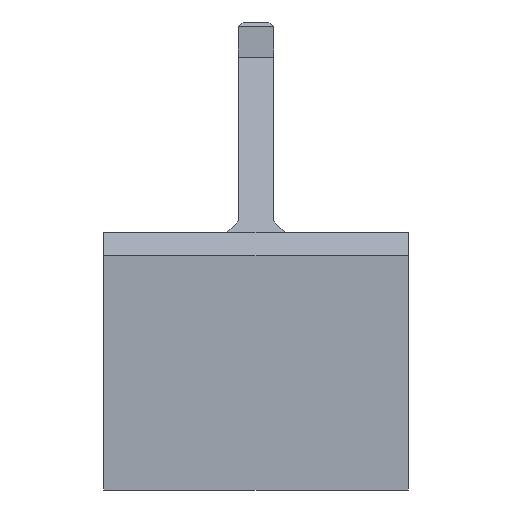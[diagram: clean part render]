
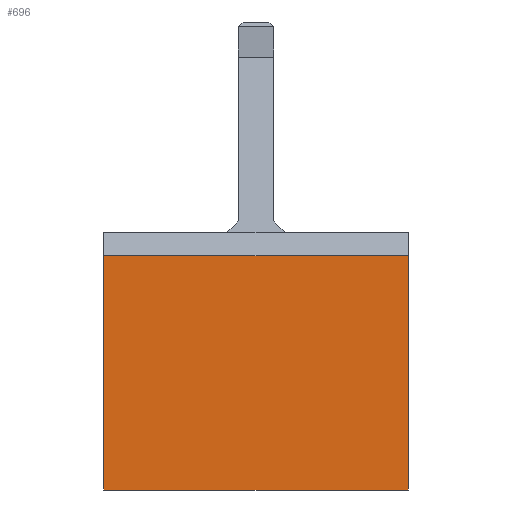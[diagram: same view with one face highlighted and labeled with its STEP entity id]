
A CAD part, front view. The second image highlights one B-rep face of the part: STEP entity #696.
In plain terms, the highlighted planar face has unit normal (0, -1, 0).
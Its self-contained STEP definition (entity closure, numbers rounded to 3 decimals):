
#43=FACE_OUTER_BOUND('',#84,.T.);
#84=EDGE_LOOP('',(#533,#534,#535,#536));
#166=LINE('',#1080,#257);
#172=LINE('',#1091,#263);
#173=LINE('',#1094,#264);
#174=LINE('',#1095,#265);
#257=VECTOR('',#869,10.);
#263=VECTOR('',#877,10.);
#264=VECTOR('',#880,10.);
#265=VECTOR('',#881,10.);
#335=VERTEX_POINT('',#1077);
#336=VERTEX_POINT('',#1079);
#339=VERTEX_POINT('',#1087);
#341=VERTEX_POINT('',#1093);
#412=EDGE_CURVE('',#335,#336,#166,.T.);
#418=EDGE_CURVE('',#336,#339,#172,.T.);
#419=EDGE_CURVE('',#335,#341,#173,.T.);
#420=EDGE_CURVE('',#339,#341,#174,.T.);
#533=ORIENTED_EDGE('',*,*,#418,.F.);
#534=ORIENTED_EDGE('',*,*,#412,.F.);
#535=ORIENTED_EDGE('',*,*,#419,.T.);
#536=ORIENTED_EDGE('',*,*,#420,.F.);
#660=PLANE('',#751);
#696=ADVANCED_FACE('',(#43),#660,.T.);
#751=AXIS2_PLACEMENT_3D('',#1092,#878,#879);
#869=DIRECTION('',(0.,0.,1.));
#877=DIRECTION('',(1.,0.,0.));
#878=DIRECTION('center_axis',(0.,-1.,0.));
#879=DIRECTION('ref_axis',(0.,0.,-1.));
#880=DIRECTION('',(1.,0.,0.));
#881=DIRECTION('',(0.,0.,-1.));
#1077=CARTESIAN_POINT('',(7.002,-28.526,-43.738));
#1079=CARTESIAN_POINT('',(7.002,-28.526,-23.704));
#1080=CARTESIAN_POINT('',(7.002,-28.526,-43.738));
#1087=CARTESIAN_POINT('',(33.002,-28.526,-23.704));
#1091=CARTESIAN_POINT('',(20.002,-28.526,-23.704));
#1092=CARTESIAN_POINT('Origin',(20.002,-28.526,-21.704));
#1093=CARTESIAN_POINT('',(33.002,-28.526,-43.738));
#1094=CARTESIAN_POINT('',(20.002,-28.526,-43.738));
#1095=CARTESIAN_POINT('',(33.002,-28.526,-43.738));
